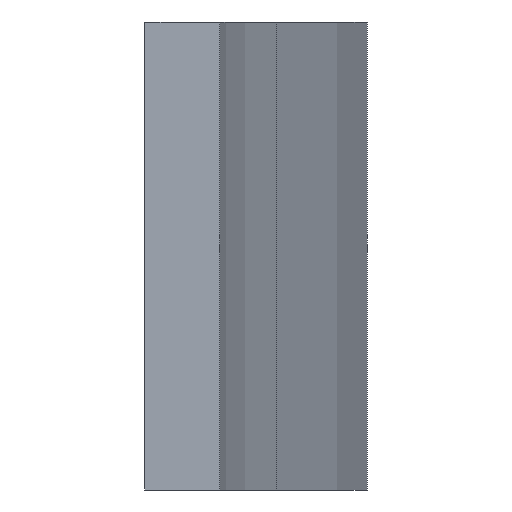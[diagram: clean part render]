
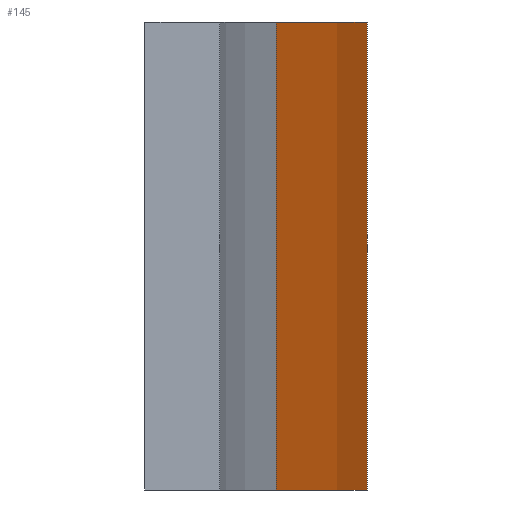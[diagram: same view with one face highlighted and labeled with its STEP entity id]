
A CAD part, left-side view. The second image highlights one B-rep face of the part: STEP entity #145.
In plain terms, the highlighted cylindrical face has radius 83.295 mm (diameter 166.59 mm), a partial arc.
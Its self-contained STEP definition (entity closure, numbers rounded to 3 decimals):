
#125 = EDGE_CURVE( '', #249, #221, #343, .T. );
#145 = ADVANCED_FACE( '', ( #364 ), #365, .T. );
#151 = EDGE_CURVE( '', #221, #285, #371, .T. );
#185 = VERTEX_POINT( '', #409 );
#217 = EDGE_CURVE( '', #249, #185, #446, .T. );
#221 = VERTEX_POINT( '', #450 );
#249 = VERTEX_POINT( '', #481 );
#283 = EDGE_CURVE( '', #185, #285, #520, .T. );
#285 = VERTEX_POINT( '', #522 );
#343 = LINE( '', #574, #575 );
#364 = FACE_OUTER_BOUND( '', #606, .T. );
#365 = CYLINDRICAL_SURFACE( '', #607, 83.295 );
#371 = CIRCLE( '', #616, 83.295 );
#409 = CARTESIAN_POINT( '', ( 88.857, -7.032, 12.5 ) );
#446 = CIRCLE( '', #712, 83.295 );
#450 = CARTESIAN_POINT( '', ( 31.729, -7.032, -12.5 ) );
#481 = CARTESIAN_POINT( '', ( 31.729, -7.032, 12.5 ) );
#520 = LINE( '', #807, #808 );
#522 = CARTESIAN_POINT( '', ( 88.857, -7.032, -12.5 ) );
#574 = CARTESIAN_POINT( '', ( 31.729, -7.032, 12.5 ) );
#575 = VECTOR( '', #872, 1. );
#606 = EDGE_LOOP( '', ( #897, #898, #899, #900 ) );
#607 = AXIS2_PLACEMENT_3D( '', #901, #902, #903 );
#616 = AXIS2_PLACEMENT_3D( '', #905, #906, #907 );
#712 = AXIS2_PLACEMENT_3D( '', #1002, #1003, #1004 );
#807 = CARTESIAN_POINT( '', ( 88.857, -7.032, 12.5 ) );
#808 = VECTOR( '', #1096, 1. );
#872 = DIRECTION( '', ( 0., 0., -1. ) );
#897 = ORIENTED_EDGE( '', *, *, #151, .T. );
#898 = ORIENTED_EDGE( '', *, *, #283, .F. );
#899 = ORIENTED_EDGE( '', *, *, #217, .F. );
#900 = ORIENTED_EDGE( '', *, *, #125, .T. );
#901 = CARTESIAN_POINT( '', ( 60.293, 71.212, 12.5 ) );
#902 = DIRECTION( '', ( 0., 0., 1. ) );
#903 = DIRECTION( '', ( -0.343, -0.939, 0. ) );
#905 = CARTESIAN_POINT( '', ( 60.293, 71.212, -12.5 ) );
#906 = DIRECTION( '', ( 0., 0., 1. ) );
#907 = DIRECTION( '', ( -0.343, -0.939, 0. ) );
#1002 = CARTESIAN_POINT( '', ( 60.293, 71.212, 12.5 ) );
#1003 = DIRECTION( '', ( 0., 0., 1. ) );
#1004 = DIRECTION( '', ( -0.343, -0.939, 0. ) );
#1096 = DIRECTION( '', ( 0., 0., -1. ) );
